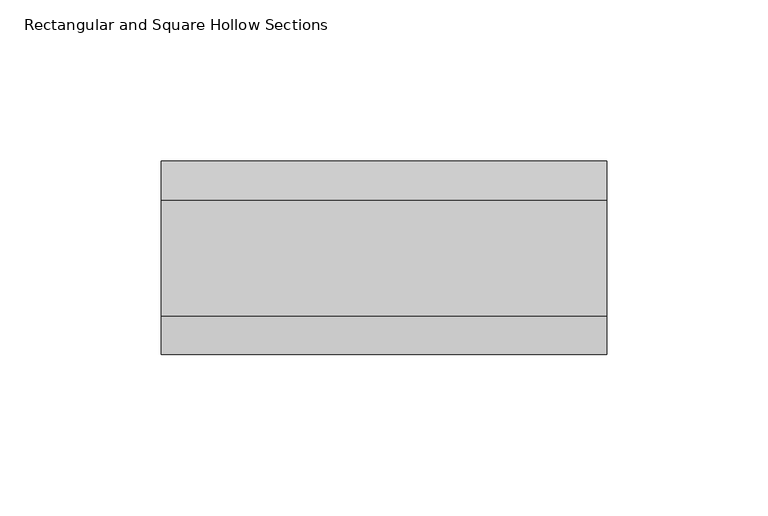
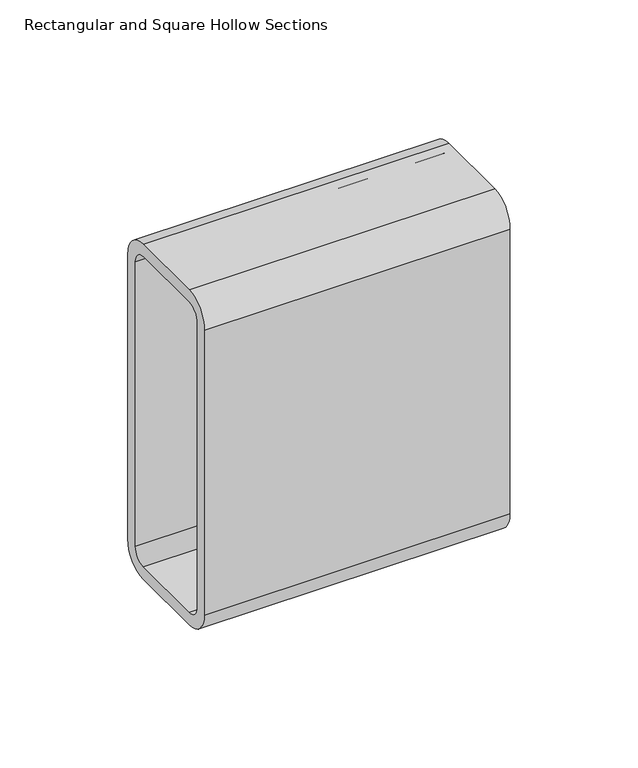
"""IFC4 building model written with IfcOpenShell, lengths in millimetres: beam geometry, Rectangular and Square Hollow Sections : TREC160x60x6."""

from ifc_helpers import new_model, si_unit, point, frame, frame_2d, origin, place, context, project, spatial, polyline, circle_curve, trimmed, segment, composite_curve, outline, extrude, source, transform, mapped, element, save


def rectangular_and_square_hollow_sections_1cc8ef98(model_context):
    return source(origin(), model_context, "Body", "SweptSolid", [
        extrude(outline(composite_curve([segment(polyline([(30.0, 68.0), (30.0, -68.0)]), True, "CONTINUOUS"), segment(trimmed(circle_curve(frame_2d((18.0, -68.0)), 12.0), [point((30.0, -68.0))], [point((18.0, -80.0))], False, "CARTESIAN"), True, "CONTINUOUS"), segment(polyline([(18.0, -80.0), (-18.0, -80.0)]), True, "CONTINUOUS"), segment(trimmed(circle_curve(frame_2d((-18.0, -68.0)), 12.0), [point((-18.0, -80.0))], [point((-30.0, -68.0))], False, "CARTESIAN"), True, "CONTINUOUS"), segment(polyline([(-30.0, -68.0), (-30.0, 68.0)]), True, "CONTINUOUS"), segment(trimmed(circle_curve(frame_2d((-18.0, 68.0)), 12.0), [point((-30.0, 68.0))], [point((-18.0, 80.0))], False, "CARTESIAN"), True, "CONTINUOUS"), segment(polyline([(-18.0, 80.0), (18.0, 80.0)]), True, "CONTINUOUS"), segment(trimmed(circle_curve(frame_2d((18.0, 68.0)), 12.0), [point((18.0, 80.0))], [point((30.0, 68.0))], False, "CARTESIAN"), True, "CONTINUOUS")], self_intersect=False), holes=[composite_curve([segment(trimmed(circle_curve(frame_2d((-18.0, 68.0)), 6.0), [point((-18.0, 74.0))], [point((-24.0, 68.0))], True, "CARTESIAN"), True, "CONTINUOUS"), segment(polyline([(-24.0, 68.0), (-24.0, -68.0)]), True, "CONTINUOUS"), segment(trimmed(circle_curve(frame_2d((-18.0, -68.0)), 6.0), [point((-24.0, -68.0))], [point((-18.0, -74.0))], True, "CARTESIAN"), True, "CONTINUOUS"), segment(polyline([(-18.0, -74.0), (18.0, -74.0)]), True, "CONTINUOUS"), segment(trimmed(circle_curve(frame_2d((18.0, -68.0)), 6.0), [point((18.0, -74.0))], [point((24.0, -68.0))], True, "CARTESIAN"), True, "CONTINUOUS"), segment(polyline([(24.0, -68.0), (24.0, 68.0)]), True, "CONTINUOUS"), segment(trimmed(circle_curve(frame_2d((18.0, 68.0)), 6.0), [point((24.0, 68.0))], [point((18.0, 74.0))], True, "CARTESIAN"), True, "CONTINUOUS"), segment(polyline([(18.0, 74.0), (-18.0, 74.0)]), True, "CONTINUOUS")], self_intersect=False)]), frame((-69.0, 0.0, 0.0), z_axis=(1.0, 0.0, 0.0), x_axis=(0.0, 1.0, 0.0)), (0.0, 0.0, 1.0), 138.0),
    ])


if __name__ == "__main__":
    model = new_model("IFC4")
    model_context = context("Model", 3, world=origin())
    ifc_project = project(units=[si_unit("LENGTHUNIT", "METRE", prefix="MILLI")], contexts=[model_context])
    site = spatial("IfcSite", under=ifc_project)
    building = spatial("IfcBuilding", under=site)
    placement = place(None, origin())
    rectangular_and_square_hollow_sections_shape = rectangular_and_square_hollow_sections_1cc8ef98(model_context)
    element("IfcBeam", 1, ObjectType="Rectangular and Square Hollow Sections : TREC160x60x6", at=placement, inside=building, context=model_context, shape_type="MappedRepresentation", body=[
        mapped(rectangular_and_square_hollow_sections_shape, transform((0.0, 0.0, 0.0), x_axis=(1.0, 0.0, 0.0), y_axis=(0.0, 1.0, 0.0), z_axis=(0.0, 0.0, 1.0))),
    ])
    save(model, "model.ifc")
